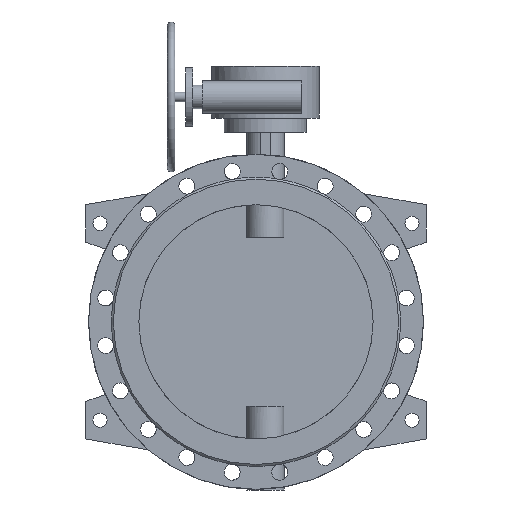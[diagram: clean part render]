
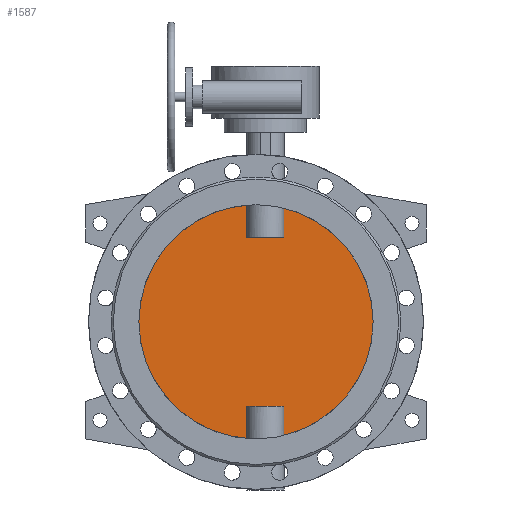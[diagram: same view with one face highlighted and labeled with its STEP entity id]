
A CAD part, front view. The second image highlights one B-rep face of the part: STEP entity #1587.
In plain terms, the highlighted planar face has unit normal (0, -1, 0).
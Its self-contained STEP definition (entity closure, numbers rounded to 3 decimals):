
#1587=ADVANCED_FACE('',(#3245),#3247,.F.);
#3245=FACE_BOUND('',#3246,.T.);
#3246=EDGE_LOOP('',(#4390,#4391,#4392,#4393,#4394,#4395,#4396,#4397));
#3247=PLANE('',#3248);
#3248=AXIS2_PLACEMENT_3D('',#3249,#3250,#3251);
#3249=CARTESIAN_POINT('',(0.,-5.,0.));
#3250=DIRECTION('',(0.,1.,0.));
#3251=DIRECTION('',(1.,0.,0.));
#4390=ORIENTED_EDGE('',*,*,#4968,.T.);
#4391=ORIENTED_EDGE('',*,*,#4978,.T.);
#4392=ORIENTED_EDGE('',*,*,#4979,.T.);
#4393=ORIENTED_EDGE('',*,*,#4980,.T.);
#4394=ORIENTED_EDGE('',*,*,#4970,.T.);
#4395=ORIENTED_EDGE('',*,*,#4981,.T.);
#4396=ORIENTED_EDGE('',*,*,#4982,.T.);
#4397=ORIENTED_EDGE('',*,*,#4983,.T.);
#4968=EDGE_CURVE('',#5880,#5881,#5882,.F.);
#4970=EDGE_CURVE('',#5885,#5883,#5886,.F.);
#4978=EDGE_CURVE('',#5881,#5900,#5901,.T.);
#4979=EDGE_CURVE('',#5900,#5902,#5903,.F.);
#4980=EDGE_CURVE('',#5902,#5885,#5904,.F.);
#4981=EDGE_CURVE('',#5883,#5905,#5906,.F.);
#4982=EDGE_CURVE('',#5905,#5907,#5908,.F.);
#4983=EDGE_CURVE('',#5907,#5880,#5909,.T.);
#5880=VERTEX_POINT('',#10427);
#5881=VERTEX_POINT('',#10428);
#5882=CIRCLE('',#10429,250.);
#5883=VERTEX_POINT('',#10433);
#5885=VERTEX_POINT('',#10524);
#5886=CIRCLE('',#10525,250.);
#5900=VERTEX_POINT('',#10655);
#5901=LINE('',#10656,#10657);
#5902=VERTEX_POINT('',#10659);
#5903=LINE('',#10660,#10661);
#5904=LINE('',#10663,#10664);
#5905=VERTEX_POINT('',#10666);
#5906=LINE('',#10667,#10668);
#5907=VERTEX_POINT('',#10670);
#5908=LINE('',#10671,#10672);
#5909=LINE('',#10674,#10675);
#10427=CARTESIAN_POINT('',(59.686,-5.,-242.771));
#10428=CARTESIAN_POINT('',(59.686,-5.,242.771));
#10429=AXIS2_PLACEMENT_3D('',#10430,#10431,#10432);
#10430=CARTESIAN_POINT('',(0.,-5.,0.));
#10431=DIRECTION('',(0.,1.,0.));
#10432=DIRECTION('',(0.239,0.,0.971));
#10433=CARTESIAN_POINT('',(-19.686,-5.,-249.224));
#10524=CARTESIAN_POINT('',(-19.686,-5.,249.224));
#10525=AXIS2_PLACEMENT_3D('',#10526,#10527,#10528);
#10526=CARTESIAN_POINT('',(0.,-5.,0.));
#10527=DIRECTION('',(0.,1.,0.));
#10528=DIRECTION('',(-0.079,0.,-0.997));
#10655=CARTESIAN_POINT('',(59.686,-5.,180.));
#10656=CARTESIAN_POINT('',(59.686,-5.,242.771));
#10657=VECTOR('',#10658,1.);
#10658=DIRECTION('',(0.,0.,-1.));
#10659=CARTESIAN_POINT('',(-19.686,-5.,180.));
#10660=CARTESIAN_POINT('',(-19.686,-5.,180.));
#10661=VECTOR('',#10662,1.);
#10662=DIRECTION('',(1.,0.,0.));
#10663=CARTESIAN_POINT('',(-19.686,-5.,249.224));
#10664=VECTOR('',#10665,1.);
#10665=DIRECTION('',(0.,0.,-1.));
#10666=CARTESIAN_POINT('',(-19.686,-5.,-180.));
#10667=CARTESIAN_POINT('',(-19.686,-5.,-180.));
#10668=VECTOR('',#10669,1.);
#10669=DIRECTION('',(0.,0.,-1.));
#10670=CARTESIAN_POINT('',(59.686,-5.,-180.));
#10671=CARTESIAN_POINT('',(59.686,-5.,-180.));
#10672=VECTOR('',#10673,1.);
#10673=DIRECTION('',(-1.,0.,0.));
#10674=CARTESIAN_POINT('',(59.686,-5.,-180.));
#10675=VECTOR('',#10676,1.);
#10676=DIRECTION('',(0.,0.,-1.));
